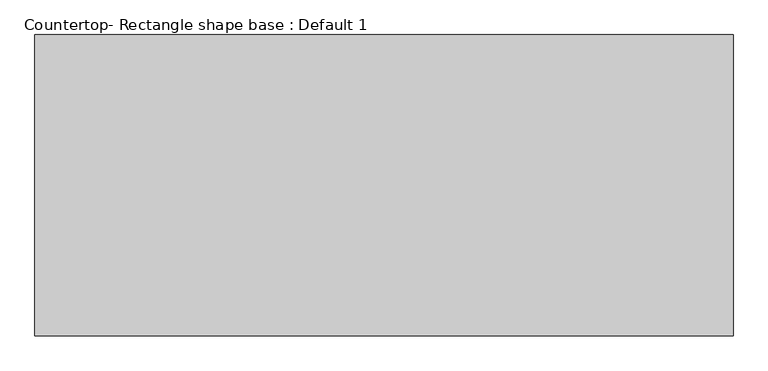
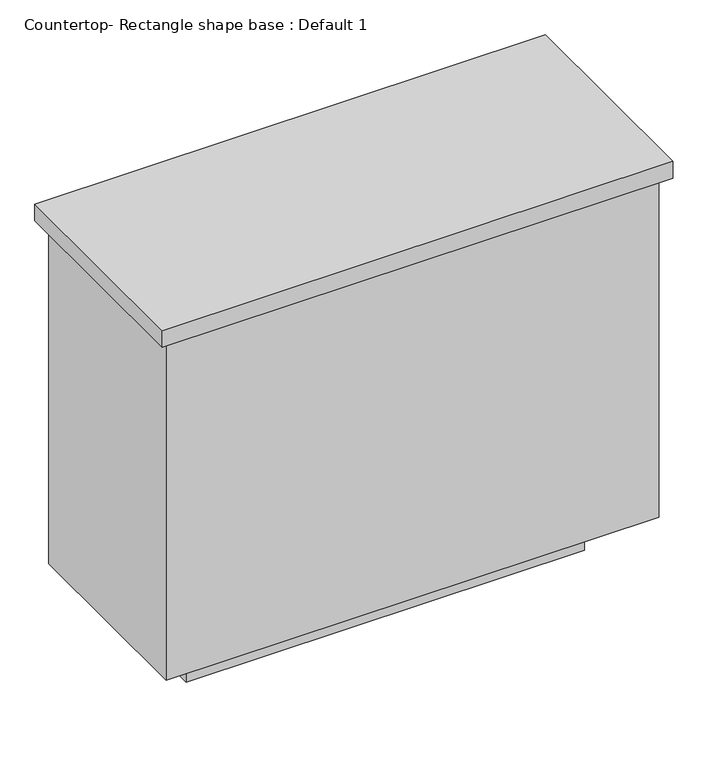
"""IFC4 building model written with IfcOpenShell, lengths in millimetres: proxy geometry, Countertop- Rectangle shape base : Default 1."""

import ifcopenshell
import ifcopenshell.guid

model = None  # the IFC model being written
_history = None  # IfcOwnerHistory: only IFC2X3 demands one
_inside = {}  # id of a spatial element -> (the spatial element, [elements in it])
_under = {}  # id of a project, library or spatial element -> (it, [spatial elements below it])
_declared = {}  # id of a project -> (the project, [libraries it declares])
_typed = {}  # id of a type object -> (the type object, [elements of that type])
_made_of = {}  # id of a material, layer set ... -> (it, [elements and type objects made of it])


def new_model(schema):
    """Start an empty IFC model of exactly this schema.

    Asked for "IFC4X3", IfcOpenShell would pick the latest addendum, in which some entities
    have other attributes; the version numbers below select the first issue.
    IFC2X3 requires an IfcOwnerHistory on every rooted entity: one is made here for all.
    """
    global model, _history
    if schema == "IFC4X3":
        model = ifcopenshell.file(schema_version=(4, 3, 0, 0))
    else:
        model = ifcopenshell.file(schema=schema)
    _inside.clear()
    _under.clear()
    _declared.clear()
    _typed.clear()
    _made_of.clear()
    _history = None
    if model.schema == "IFC2X3":
        org = make("IfcOrganization", Name="unknown")
        user = make(
            "IfcPersonAndOrganization",
            ThePerson=make("IfcPerson", FamilyName="unknown"),
            TheOrganization=org,
        )
        app = make(
            "IfcApplication",
            ApplicationDeveloper=org,
            Version="unknown",
            ApplicationFullName="unknown",
            ApplicationIdentifier="unknown",
        )
        _history = make(
            "IfcOwnerHistory",
            OwningUser=user,
            OwningApplication=app,
            ChangeAction="ADDED",
            CreationDate=0,
        )
    return model


def make(cls, **values):
    """One entity of the class cls with the attributes given. An attribute that is None is left unset."""
    return model.create_entity(
        cls, **{name: value for name, value in values.items() if value is not None}
    )


def rooted(cls, **values):
    """An entity with a GlobalId (a new one), such as an element, a storey or a relation."""
    return make(cls, GlobalId=ifcopenshell.guid.new(), OwnerHistory=_history, **values)


def si_unit(unit_type, name, prefix=None):
    """IfcSIUnit, for example si_unit("LENGTHUNIT", "METRE", prefix="MILLI")."""
    return make("IfcSIUnit", UnitType=unit_type, Prefix=prefix, Name=name)


def assignment(units):
    """IfcUnitAssignment: the units of a project."""
    return None if units is None else make("IfcUnitAssignment", Units=units)


def point(xyz):
    """IfcCartesianPoint."""
    return None if xyz is None else make("IfcCartesianPoint", Coordinates=xyz)


def direction(xyz):
    """IfcDirection."""
    return None if xyz is None else make("IfcDirection", DirectionRatios=xyz)


def frame(location, z_axis=None, x_axis=None):
    """IfcAxis2Placement3D, a coordinate frame: its origin and axes. An axis left out is left unset."""
    return make(
        "IfcAxis2Placement3D",
        Location=point(location),
        Axis=direction(z_axis),
        RefDirection=direction(x_axis),
    )


def origin():
    """The frame at (0, 0, 0) with its axes left unset."""
    return frame((0.0, 0.0, 0.0))


def origin_with_axes():
    """The frame at (0, 0, 0) with the z axis (0, 0, 1) and the x axis (1, 0, 0) written out."""
    return frame((0.0, 0.0, 0.0), z_axis=(0.0, 0.0, 1.0), x_axis=(1.0, 0.0, 0.0))


def place(relative_to, where):
    """IfcLocalPlacement: puts the frame where relative to a parent placement (None: the world)."""
    return make(
        "IfcLocalPlacement", PlacementRelTo=relative_to, RelativePlacement=where
    )


def context(
    kind, dimensions, precision=None, world=None, true_north=None, identifier=None
):
    """IfcGeometricRepresentationContext, for example the 3D "Model" context."""
    return make(
        "IfcGeometricRepresentationContext",
        ContextIdentifier=identifier,
        ContextType=kind,
        CoordinateSpaceDimension=dimensions,
        Precision=precision,
        WorldCoordinateSystem=world,
        TrueNorth=true_north,
    )


def project(units=None, contexts=None):
    """IfcProject with its units and contexts."""
    return rooted(
        "IfcProject",
        Name="project",
        RepresentationContexts=contexts,
        UnitsInContext=assignment(units),
    )


def spatial(cls, under=None, at=None, **own):
    """A site, building, storey or space (cls), placed at a placement, below another one or the project."""
    s = rooted(cls, ObjectPlacement=at, **own)
    if under is not None:
        _under.setdefault(under.id(), (under, []))[1].append(s)
    return s


def polyline(points):
    """IfcPolyline through the points."""
    return make("IfcPolyline", Points=[point(p) for p in points])


def outline(outer, holes=None, kind="AREA"):
    """IfcArbitraryClosedProfileDef: a profile drawn as a closed curve; with holes, ...WithVoids."""
    if holes is None:
        return make("IfcArbitraryClosedProfileDef", ProfileType=kind, OuterCurve=outer)
    return make(
        "IfcArbitraryProfileDefWithVoids",
        ProfileType=kind,
        OuterCurve=outer,
        InnerCurves=holes,
    )


def extrude(swept, where, along, depth):
    """IfcExtrudedAreaSolid: the profile swept, set in the frame where, extruded along a direction by depth."""
    return make(
        "IfcExtrudedAreaSolid",
        SweptArea=swept,
        Position=where,
        ExtrudedDirection=direction(along),
        Depth=depth,
    )


def shape(context_of_items, identifier, shape_type, items):
    """IfcShapeRepresentation: the items that make up one representation, for example the "Body"."""
    return make(
        "IfcShapeRepresentation",
        ContextOfItems=context_of_items,
        RepresentationIdentifier=identifier,
        RepresentationType=shape_type,
        Items=items,
    )


def source(mapping_origin, context_of_items, identifier, shape_type, items):
    """IfcRepresentationMap: a shape defined once, which mapped items show again and again."""
    return make(
        "IfcRepresentationMap",
        MappingOrigin=mapping_origin,
        MappedRepresentation=shape(context_of_items, identifier, shape_type, items),
    )


def transform(
    local_origin,
    x_axis=None,
    y_axis=None,
    z_axis=None,
    scale=None,
    scale2=None,
    scale3=None,
    uniform=True,
):
    """IfcCartesianTransformationOperator3D, or its non-uniform kind. x_axis, y_axis, z_axis: its Axis1, 2, 3."""
    if uniform:
        return make(
            "IfcCartesianTransformationOperator3D",
            Axis1=direction(x_axis),
            Axis2=direction(y_axis),
            LocalOrigin=point(local_origin),
            Scale=scale,
            Axis3=direction(z_axis),
        )
    return make(
        "IfcCartesianTransformationOperator3DnonUniform",
        Axis1=direction(x_axis),
        Axis2=direction(y_axis),
        LocalOrigin=point(local_origin),
        Scale=scale,
        Axis3=direction(z_axis),
        Scale2=scale2,
        Scale3=scale3,
    )


def mapped(mapping_source, mapping_target):
    """IfcMappedItem: shows the shape of a source again, moved by a transform."""
    return make(
        "IfcMappedItem", MappingSource=mapping_source, MappingTarget=mapping_target
    )


def made_of(thing, what):
    """Note that an element or type object is made of a material, layer set ...; save() writes the relation."""
    if what is not None:
        _made_of.setdefault(what.id(), (what, []))[1].append(thing)
    return thing


def element(
    cls,
    number,
    at=None,
    inside=None,
    cuts=None,
    type_object=None,
    material=None,
    context=None,
    identifier="Body",
    shape_type=None,
    held_by="IfcProductDefinitionShape",
    body=None,
    shapes=None,
    **own,
):
    """One element of the class cls, such as IfcWall. Its Tag is "e" and its number.

    at: its placement. inside: the storey or other place that contains it. cuts: it is an
    opening in that element (IfcRelVoidsElement). A single representation is given by context,
    identifier, shape_type and body (its items); several are given by shapes. held_by: the class
    of the entity that holds the representations. save() writes the other relations.
    """
    e = rooted(cls, Tag="e%d" % number, ObjectPlacement=at, **own)
    if body is not None:
        shapes = [shape(context, identifier, shape_type, body)]
    if shapes is not None:
        e.Representation = make(held_by, Representations=shapes)
    if inside is not None:
        _inside.setdefault(inside.id(), (inside, []))[1].append(e)
    if cuts is not None:
        rooted(
            "IfcRelVoidsElement", RelatingBuildingElement=cuts, RelatedOpeningElement=e
        )
    if type_object is not None:
        _typed.setdefault(type_object.id(), (type_object, []))[1].append(e)
    return made_of(e, material)


def aggregate(whole, parts):
    """IfcRelAggregates: a whole, such as a stair, and the parts it consists of."""
    return rooted("IfcRelAggregates", RelatingObject=whole, RelatedObjects=parts)


def save(model, path):
    """Write the relations noted so far, then the file.

    IfcRelAggregates (storeys below a building ...), IfcRelContainedInSpatialStructure (elements
    in a storey), IfcRelDefinesByType, IfcRelAssociatesMaterial and IfcRelDeclares: one each for
    every whole, place, type object, material and project.
    """
    for whole, parts in _under.values():
        aggregate(whole, parts)
    for where, things in _inside.values():
        rooted(
            "IfcRelContainedInSpatialStructure",
            RelatedElements=things,
            RelatingStructure=where,
        )
    for kind, things in _typed.values():
        rooted("IfcRelDefinesByType", RelatedObjects=things, RelatingType=kind)
    for what, things in _made_of.values():
        rooted("IfcRelAssociatesMaterial", RelatedObjects=things, RelatingMaterial=what)
    for by, libraries in _declared.values():
        rooted("IfcRelDeclares", RelatingContext=by, RelatedDefinitions=libraries)
    model.write(path)


def countertop_rectangle_shape_base_default_1_46905aff(model_context):
    return source(origin(), model_context, "Body", "SweptSolid", [
        extrude(outline(polyline([(212.9797001, 143.914435), (212.9797001, 618.085565), (1311.0202999, 618.085565), (1311.0202999, 143.914435), (212.9797001, 143.914435)])), frame((0.0, 0.0, 876.3), z_axis=(0.0, 0.0, 1.0), x_axis=(1.0, 0.0, 0.0)), (0.0, 0.0, 1.0), 38.1),
        extrude(outline(polyline([(1291.9702999, 599.035565), (1291.9702999, 162.964435), (232.0297001, 162.964435), (232.0297001, 599.035565), (1291.9702999, 599.035565)])), frame((0.0, 0.0, 101.6), z_axis=(0.0, 0.0, 1.0), x_axis=(1.0, 0.0, 0.0)), (0.0, 0.0, 1.0), 774.7),
        extrude(outline(polyline([(1190.3702999, 497.435565), (1190.3702999, 264.564435), (333.6297001, 264.564435), (333.6297001, 497.435565), (1190.3702999, 497.435565)])), origin_with_axes(), (0.0, 0.0, 1.0), 101.6),
    ])


if __name__ == "__main__":
    model = new_model("IFC4")
    model_context = context("Model", 3, world=origin())
    ifc_project = project(units=[si_unit("LENGTHUNIT", "METRE", prefix="MILLI")], contexts=[model_context])
    site = spatial("IfcSite", under=ifc_project)
    building = spatial("IfcBuilding", under=site)
    placement = place(None, origin())
    countertop_rectangle_shape_base_default_1_shape = countertop_rectangle_shape_base_default_1_46905aff(model_context)
    element("IfcBuildingElementProxy", 1, Name="Countertop- Rectangle shape base : Default 1", ObjectType="Countertop- Rectangle shape base : Default 1", at=placement, inside=building, context=model_context, shape_type="MappedRepresentation", body=[
        mapped(countertop_rectangle_shape_base_default_1_shape, transform((0.0, 0.0, 0.0), x_axis=(1.0, 0.0, 0.0), y_axis=(0.0, 1.0, 0.0), z_axis=(0.0, 0.0, 1.0))),
    ])
    save(model, "model.ifc")
